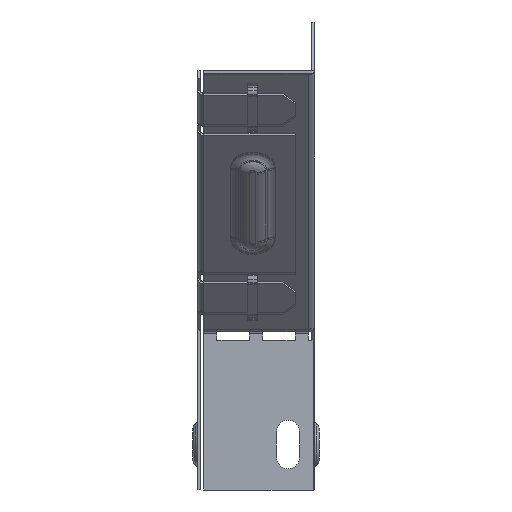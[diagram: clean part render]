
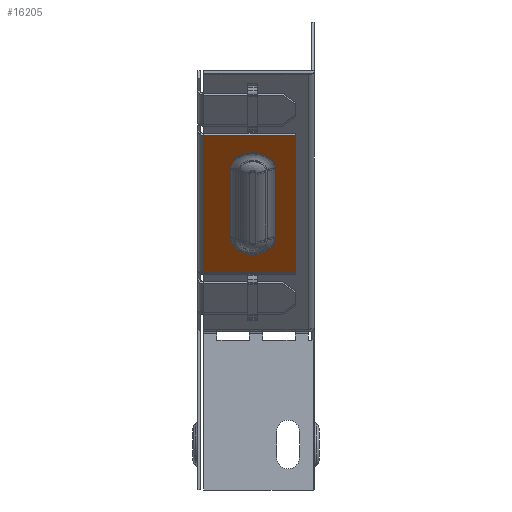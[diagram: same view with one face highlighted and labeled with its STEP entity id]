
A CAD part, left-side view. The second image highlights one B-rep face of the part: STEP entity #16205.
In plain terms, the highlighted planar face has unit normal (-0.707, 0, -0.707).
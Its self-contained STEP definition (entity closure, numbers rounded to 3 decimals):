
#171 = DIRECTION ( 'NONE',  ( 0.707, 0., 0.707 ) ) ;
#242 = VECTOR ( 'NONE', #8127, 1000. ) ;
#355 = VERTEX_POINT ( 'NONE', #16384 ) ;
#552 = CARTESIAN_POINT ( 'NONE',  ( -153.087, 33.2, -18.591 ) ) ;
#680 = LINE ( 'NONE', #552, #242 ) ;
#962 = ORIENTED_EDGE ( 'NONE', *, *, #9204, .T. ) ;
#1295 = VERTEX_POINT ( 'NONE', #10699 ) ;
#1387 = AXIS2_PLACEMENT_3D ( 'NONE', #16993, #171, #9949 ) ;
#1958 = VECTOR ( 'NONE', #18038, 1000. ) ;
#2096 = VERTEX_POINT ( 'NONE', #8378 ) ;
#2408 = CARTESIAN_POINT ( 'NONE',  ( -78.337, 5., -93.341 ) ) ;
#2443 = VERTEX_POINT ( 'NONE', #13332 ) ;
#2665 = EDGE_CURVE ( 'NONE', #355, #1295, #16242, .T. ) ;
#2683 = VERTEX_POINT ( 'NONE', #7993 ) ;
#2687 = CARTESIAN_POINT ( 'NONE',  ( -136.823, 5., -34.855 ) ) ;
#2832 = VERTEX_POINT ( 'NONE', #4267 ) ;
#3329 = DIRECTION ( 'NONE',  ( 0.707, 0., -0.707 ) ) ;
#3824 = CARTESIAN_POINT ( 'NONE',  ( -136.823, 5., -34.855 ) ) ;
#4041 = AXIS2_PLACEMENT_3D ( 'NONE', #10915, #16569, #6644 ) ;
#4267 = CARTESIAN_POINT ( 'NONE',  ( -136.823, 33.2, -34.855 ) ) ;
#4849 = ORIENTED_EDGE ( 'NONE', *, *, #7052, .T. ) ;
#4956 = EDGE_LOOP ( 'NONE', ( #14672, #8007, #962, #10024 ) ) ;
#5658 = VERTEX_POINT ( 'NONE', #3824 ) ;
#5684 = VECTOR ( 'NONE', #6045, 1000. ) ;
#5717 = VERTEX_POINT ( 'NONE', #9779 ) ;
#6045 = DIRECTION ( 'NONE',  ( 0., 1., 0. ) ) ;
#6074 = VECTOR ( 'NONE', #3329, 1000. ) ;
#6522 = DIRECTION ( 'NONE',  ( -0.707, 0., 0.707 ) ) ;
#6644 = DIRECTION ( 'NONE',  ( 0.707, 0., -0.707 ) ) ;
#7052 = EDGE_CURVE ( 'NONE', #2096, #2683, #10274, .T. ) ;
#7881 = VECTOR ( 'NONE', #6522, 1000. ) ;
#7993 = CARTESIAN_POINT ( 'NONE',  ( -104.993, 11.183, -66.685 ) ) ;
#8007 = ORIENTED_EDGE ( 'NONE', *, *, #2665, .T. ) ;
#8127 = DIRECTION ( 'NONE',  ( -0.707, 0., 0.707 ) ) ;
#8378 = CARTESIAN_POINT ( 'NONE',  ( -126.206, 11.183, -45.472 ) ) ;
#8982 = ORIENTED_EDGE ( 'NONE', *, *, #9485, .T. ) ;
#9199 = DIRECTION ( 'NONE',  ( 0.5, -0.707, -0.5 ) ) ;
#9204 = EDGE_CURVE ( 'NONE', #1295, #5658, #12264, .T. ) ;
#9264 = CARTESIAN_POINT ( 'NONE',  ( -104.993, 18.1, -66.685 ) ) ;
#9485 = EDGE_CURVE ( 'NONE', #2443, #5717, #16228, .T. ) ;
#9779 = CARTESIAN_POINT ( 'NONE',  ( -126.206, 25.017, -45.472 ) ) ;
#9825 = EDGE_CURVE ( 'NONE', #5717, #2096, #15770, .T. ) ;
#9949 = DIRECTION ( 'NONE',  ( 0.5, -0.707, -0.5 ) ) ;
#10024 = ORIENTED_EDGE ( 'NONE', *, *, #17107, .T. ) ;
#10274 = LINE ( 'NONE', #11755, #6074 ) ;
#10699 = CARTESIAN_POINT ( 'NONE',  ( -94.022, 5., -77.656 ) ) ;
#10739 = LINE ( 'NONE', #2687, #5684 ) ;
#10915 = CARTESIAN_POINT ( 'NONE',  ( -78.337, 35., -93.341 ) ) ;
#11056 = CARTESIAN_POINT ( 'NONE',  ( -94.022, 5., -77.656 ) ) ;
#11118 = EDGE_LOOP ( 'NONE', ( #4849, #14332, #8982, #16666 ) ) ;
#11644 = FACE_OUTER_BOUND ( 'NONE', #4956, .T. ) ;
#11670 = EDGE_CURVE ( 'NONE', #355, #2832, #680, .T. ) ;
#11755 = CARTESIAN_POINT ( 'NONE',  ( -104.993, 11.183, -66.685 ) ) ;
#12264 = LINE ( 'NONE', #2408, #7881 ) ;
#12524 = VECTOR ( 'NONE', #12981, 1000. ) ;
#12981 = DIRECTION ( 'NONE',  ( -0.707, 0., 0.707 ) ) ;
#13332 = CARTESIAN_POINT ( 'NONE',  ( -104.993, 25.017, -66.685 ) ) ;
#14332 = ORIENTED_EDGE ( 'NONE', *, *, #18114, .T. ) ;
#14550 = CIRCLE ( 'NONE', #15138, 6.917 ) ;
#14672 = ORIENTED_EDGE ( 'NONE', *, *, #11670, .F. ) ;
#15032 = PLANE ( 'NONE',  #4041 ) ;
#15138 = AXIS2_PLACEMENT_3D ( 'NONE', #9264, #16359, #9199 ) ;
#15770 = CIRCLE ( 'NONE', #1387, 6.917 ) ;
#16205 = ADVANCED_FACE ( 'NONE', ( #16707, #11644 ), #15032, .F. ) ;
#16228 = LINE ( 'NONE', #17237, #12524 ) ;
#16242 = LINE ( 'NONE', #11056, #1958 ) ;
#16359 = DIRECTION ( 'NONE',  ( 0.707, 0., 0.707 ) ) ;
#16384 = CARTESIAN_POINT ( 'NONE',  ( -94.022, 33.2, -77.656 ) ) ;
#16569 = DIRECTION ( 'NONE',  ( 0.707, 0., 0.707 ) ) ;
#16666 = ORIENTED_EDGE ( 'NONE', *, *, #9825, .T. ) ;
#16707 = FACE_BOUND ( 'NONE', #11118, .T. ) ;
#16993 = CARTESIAN_POINT ( 'NONE',  ( -126.206, 18.1, -45.472 ) ) ;
#17107 = EDGE_CURVE ( 'NONE', #5658, #2832, #10739, .T. ) ;
#17237 = CARTESIAN_POINT ( 'NONE',  ( -104.993, 25.017, -66.685 ) ) ;
#18038 = DIRECTION ( 'NONE',  ( 0., -1., 0. ) ) ;
#18114 = EDGE_CURVE ( 'NONE', #2683, #2443, #14550, .T. ) ;
